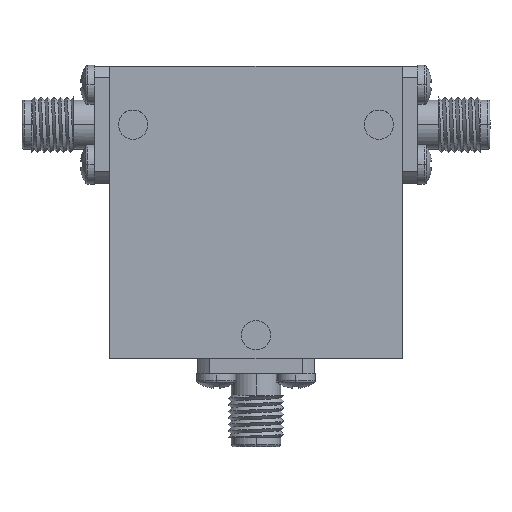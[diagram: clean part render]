
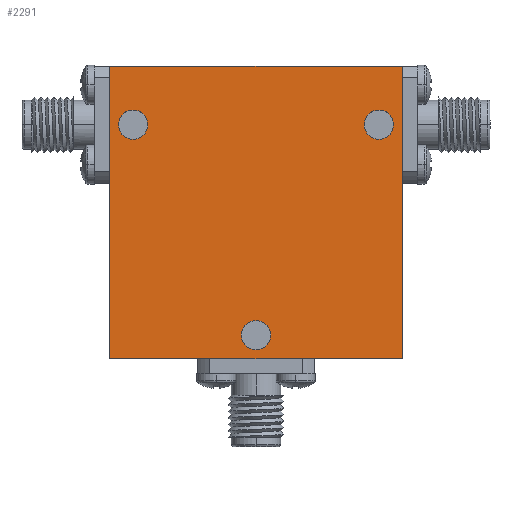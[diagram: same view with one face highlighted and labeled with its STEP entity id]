
A CAD part, top view. The second image highlights one B-rep face of the part: STEP entity #2291.
In plain terms, the highlighted planar face has unit normal (0, 0, 1).
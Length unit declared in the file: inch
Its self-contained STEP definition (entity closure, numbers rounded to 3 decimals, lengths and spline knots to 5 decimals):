
#27 = CIRCLE ( 'NONE', #1915, 0.0625 ) ;
#28 = CARTESIAN_POINT ( 'NONE',  ( -0.625, -0.625, 0.35 ) ) ;
#36 = FACE_BOUND ( 'NONE', #3183, .T. ) ;
#84 = CARTESIAN_POINT ( 'NONE',  ( 0., -0.525, 0.35 ) ) ;
#159 = DIRECTION ( 'NONE',  ( 0., 0., 1. ) ) ;
#176 = ORIENTED_EDGE ( 'NONE', *, *, #2715, .F. ) ;
#183 = CARTESIAN_POINT ( 'NONE',  ( 0.625, 0.625, 0.35 ) ) ;
#210 = CARTESIAN_POINT ( 'NONE',  ( -0.5875, 0.375, 0.35 ) ) ;
#227 = CIRCLE ( 'NONE', #2507, 0.0625 ) ;
#386 = EDGE_CURVE ( 'NONE', #1648, #2194, #3485, .T. ) ;
#404 = CIRCLE ( 'NONE', #725, 0.0625 ) ;
#438 = VERTEX_POINT ( 'NONE', #183 ) ;
#452 = ORIENTED_EDGE ( 'NONE', *, *, #386, .T. ) ;
#503 = ORIENTED_EDGE ( 'NONE', *, *, #1121, .F. ) ;
#505 = FACE_OUTER_BOUND ( 'NONE', #516, .T. ) ;
#506 = DIRECTION ( 'NONE',  ( 0., 0., 1. ) ) ;
#516 = EDGE_LOOP ( 'NONE', ( #2449, #3221, #452, #731 ) ) ;
#528 = EDGE_CURVE ( 'NONE', #1405, #2047, #3299, .T. ) ;
#529 = CARTESIAN_POINT ( 'NONE',  ( 0., -0.525, 0.35 ) ) ;
#725 = AXIS2_PLACEMENT_3D ( 'NONE', #1371, #159, #1970 ) ;
#731 = ORIENTED_EDGE ( 'NONE', *, *, #2001, .T. ) ;
#806 = AXIS2_PLACEMENT_3D ( 'NONE', #1864, #973, #1280 ) ;
#973 = DIRECTION ( 'NONE',  ( 0., 0., 1. ) ) ;
#994 = CARTESIAN_POINT ( 'NONE',  ( -0.625, 0.625, 0.35 ) ) ;
#1031 = ORIENTED_EDGE ( 'NONE', *, *, #528, .F. ) ;
#1064 = VERTEX_POINT ( 'NONE', #1871 ) ;
#1121 = EDGE_CURVE ( 'NONE', #2047, #1405, #1930, .T. ) ;
#1125 = DIRECTION ( 'NONE',  ( 0., 0., 1. ) ) ;
#1129 = CARTESIAN_POINT ( 'NONE',  ( -0.525, 0.375, 0.35 ) ) ;
#1260 = PLANE ( 'NONE',  #806 ) ;
#1280 = DIRECTION ( 'NONE',  ( 1., 0., 0. ) ) ;
#1297 = LINE ( 'NONE', #3417, #2759 ) ;
#1371 = CARTESIAN_POINT ( 'NONE',  ( 0.525, 0.375, 0.35 ) ) ;
#1399 = DIRECTION ( 'NONE',  ( 1., 0., 0. ) ) ;
#1405 = VERTEX_POINT ( 'NONE', #3189 ) ;
#1420 = CARTESIAN_POINT ( 'NONE',  ( 0.4625, 0.375, 0.35 ) ) ;
#1573 = VECTOR ( 'NONE', #2055, 39.37008 ) ;
#1646 = AXIS2_PLACEMENT_3D ( 'NONE', #529, #3487, #2010 ) ;
#1648 = VERTEX_POINT ( 'NONE', #2945 ) ;
#1727 = ORIENTED_EDGE ( 'NONE', *, *, #2597, .F. ) ;
#1746 = ORIENTED_EDGE ( 'NONE', *, *, #3094, .F. ) ;
#1858 = VERTEX_POINT ( 'NONE', #2545 ) ;
#1864 = CARTESIAN_POINT ( 'NONE',  ( 0., 0., 0.35 ) ) ;
#1871 = CARTESIAN_POINT ( 'NONE',  ( 0.625, -0.625, 0.35 ) ) ;
#1898 = EDGE_LOOP ( 'NONE', ( #176, #3084 ) ) ;
#1915 = AXIS2_PLACEMENT_3D ( 'NONE', #2882, #1125, #3451 ) ;
#1930 = CIRCLE ( 'NONE', #1646, 0.0625 ) ;
#1970 = DIRECTION ( 'NONE',  ( 1., 0., 0. ) ) ;
#2001 = EDGE_CURVE ( 'NONE', #2194, #1064, #2069, .T. ) ;
#2010 = DIRECTION ( 'NONE',  ( 1., 0., 0. ) ) ;
#2047 = VERTEX_POINT ( 'NONE', #2648 ) ;
#2055 = DIRECTION ( 'NONE',  ( 0., -1., 0. ) ) ;
#2069 = LINE ( 'NONE', #2361, #2109 ) ;
#2080 = LINE ( 'NONE', #994, #2283 ) ;
#2109 = VECTOR ( 'NONE', #3472, 39.37008 ) ;
#2153 = DIRECTION ( 'NONE',  ( 0., 0., 1. ) ) ;
#2194 = VERTEX_POINT ( 'NONE', #28 ) ;
#2247 = CIRCLE ( 'NONE', #2316, 0.0625 ) ;
#2273 = DIRECTION ( 'NONE',  ( 0., 1., 0. ) ) ;
#2283 = VECTOR ( 'NONE', #3346, 39.37008 ) ;
#2291 = ADVANCED_FACE ( 'NONE', ( #36, #3468, #2710, #505 ), #1260, .T. ) ;
#2316 = AXIS2_PLACEMENT_3D ( 'NONE', #3384, #506, #3740 ) ;
#2361 = CARTESIAN_POINT ( 'NONE',  ( -0.625, -0.625, 0.35 ) ) ;
#2392 = EDGE_CURVE ( 'NONE', #438, #1648, #2080, .T. ) ;
#2412 = AXIS2_PLACEMENT_3D ( 'NONE', #84, #2153, #2452 ) ;
#2449 = ORIENTED_EDGE ( 'NONE', *, *, #3053, .T. ) ;
#2452 = DIRECTION ( 'NONE',  ( 1., 0., 0. ) ) ;
#2507 = AXIS2_PLACEMENT_3D ( 'NONE', #1129, #2564, #1399 ) ;
#2545 = CARTESIAN_POINT ( 'NONE',  ( -0.4625, 0.375, 0.35 ) ) ;
#2564 = DIRECTION ( 'NONE',  ( 0., 0., 1. ) ) ;
#2597 = EDGE_CURVE ( 'NONE', #2676, #3392, #404, .T. ) ;
#2648 = CARTESIAN_POINT ( 'NONE',  ( -0.0625, -0.525, 0.35 ) ) ;
#2676 = VERTEX_POINT ( 'NONE', #1420 ) ;
#2710 = FACE_BOUND ( 'NONE', #1898, .T. ) ;
#2715 = EDGE_CURVE ( 'NONE', #1858, #2765, #227, .T. ) ;
#2759 = VECTOR ( 'NONE', #2273, 39.37008 ) ;
#2765 = VERTEX_POINT ( 'NONE', #210 ) ;
#2882 = CARTESIAN_POINT ( 'NONE',  ( 0.525, 0.375, 0.35 ) ) ;
#2945 = CARTESIAN_POINT ( 'NONE',  ( -0.625, 0.625, 0.35 ) ) ;
#3027 = EDGE_LOOP ( 'NONE', ( #1031, #503 ) ) ;
#3049 = EDGE_CURVE ( 'NONE', #2765, #1858, #2247, .T. ) ;
#3053 = EDGE_CURVE ( 'NONE', #1064, #438, #1297, .T. ) ;
#3084 = ORIENTED_EDGE ( 'NONE', *, *, #3049, .F. ) ;
#3094 = EDGE_CURVE ( 'NONE', #3392, #2676, #27, .T. ) ;
#3183 = EDGE_LOOP ( 'NONE', ( #1746, #1727 ) ) ;
#3189 = CARTESIAN_POINT ( 'NONE',  ( 0.0625, -0.525, 0.35 ) ) ;
#3221 = ORIENTED_EDGE ( 'NONE', *, *, #2392, .T. ) ;
#3272 = CARTESIAN_POINT ( 'NONE',  ( 0.5875, 0.375, 0.35 ) ) ;
#3299 = CIRCLE ( 'NONE', #2412, 0.0625 ) ;
#3346 = DIRECTION ( 'NONE',  ( -1., 0., 0. ) ) ;
#3384 = CARTESIAN_POINT ( 'NONE',  ( -0.525, 0.375, 0.35 ) ) ;
#3392 = VERTEX_POINT ( 'NONE', #3272 ) ;
#3417 = CARTESIAN_POINT ( 'NONE',  ( 0.625, 0.625, 0.35 ) ) ;
#3451 = DIRECTION ( 'NONE',  ( 1., 0., 0. ) ) ;
#3468 = FACE_BOUND ( 'NONE', #3027, .T. ) ;
#3472 = DIRECTION ( 'NONE',  ( 1., 0., 0. ) ) ;
#3485 = LINE ( 'NONE', #3507, #1573 ) ;
#3487 = DIRECTION ( 'NONE',  ( 0., 0., 1. ) ) ;
#3507 = CARTESIAN_POINT ( 'NONE',  ( -0.625, 0.625, 0.35 ) ) ;
#3740 = DIRECTION ( 'NONE',  ( 1., 0., 0. ) ) ;
